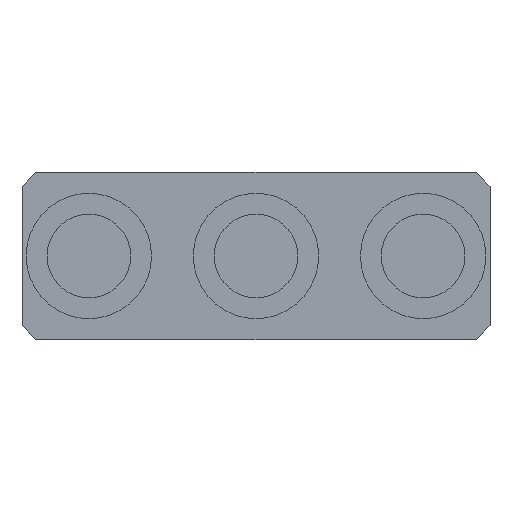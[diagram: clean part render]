
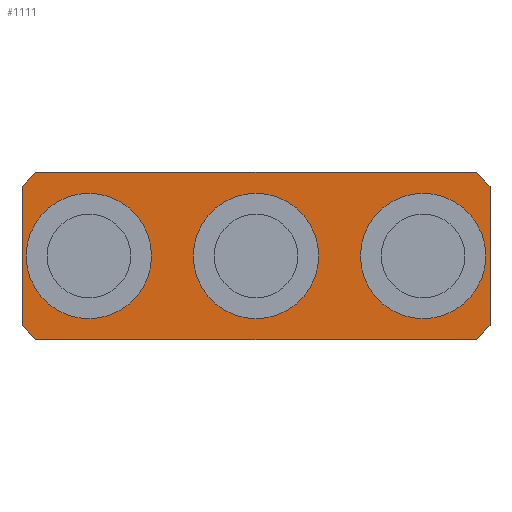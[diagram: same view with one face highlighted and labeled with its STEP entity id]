
A CAD part, left-side view. The second image highlights one B-rep face of the part: STEP entity #1111.
In plain terms, the highlighted planar face has unit normal (-1, 0, 0).
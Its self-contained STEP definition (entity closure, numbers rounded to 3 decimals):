
#1111 = ADVANCED_FACE('',(#1112,#1247,#1270,#1293),#1126,.F.);
#1112 = FACE_BOUND('',#1113,.T.);
#1113 = EDGE_LOOP('',(#1114,#1137,#1153,#1169,#1185,#1201,#1217,#1233));
#1114 = ORIENTED_EDGE('',*,*,#1115,.T.);
#1115 = EDGE_CURVE('',#1116,#1118,#1120,.T.);
#1116 = VERTEX_POINT('',#1117);
#1117 = CARTESIAN_POINT('',(0.,16.8,0.5));
#1118 = VERTEX_POINT('',#1119);
#1119 = CARTESIAN_POINT('',(0.,16.3,0.));
#1120 = SURFACE_CURVE('',#1121,(#1125),.PCURVE_S1.);
#1121 = LINE('',#1122,#1123);
#1122 = CARTESIAN_POINT('',(0.,16.3,0.));
#1123 = VECTOR('',#1124,1.);
#1124 = DIRECTION('',(0.,-0.707,-0.707));
#1125 = PCURVE('',#1126,#1131);
#1126 = PLANE('',#1127);
#1127 = AXIS2_PLACEMENT_3D('',#1128,#1129,#1130);
#1128 = CARTESIAN_POINT('',(0.,0.,0.));
#1129 = DIRECTION('',(1.,0.,0.));
#1130 = DIRECTION('',(0.,0.,-1.));
#1131 = DEFINITIONAL_REPRESENTATION('',(#1132),#1136);
#1132 = LINE('',#1133,#1134);
#1133 = CARTESIAN_POINT('',(0.,16.3));
#1134 = VECTOR('',#1135,1.);
#1135 = DIRECTION('',(0.707,-0.707));
#1136 = ( GEOMETRIC_REPRESENTATION_CONTEXT(2) 
PARAMETRIC_REPRESENTATION_CONTEXT() REPRESENTATION_CONTEXT('2D SPACE',''
  ) );
#1137 = ORIENTED_EDGE('',*,*,#1138,.F.);
#1138 = EDGE_CURVE('',#1139,#1118,#1141,.T.);
#1139 = VERTEX_POINT('',#1140);
#1140 = CARTESIAN_POINT('',(0.,0.5,0.));
#1141 = SURFACE_CURVE('',#1142,(#1146),.PCURVE_S1.);
#1142 = LINE('',#1143,#1144);
#1143 = CARTESIAN_POINT('',(0.,0.,0.));
#1144 = VECTOR('',#1145,1.);
#1145 = DIRECTION('',(0.,1.,0.));
#1146 = PCURVE('',#1126,#1147);
#1147 = DEFINITIONAL_REPRESENTATION('',(#1148),#1152);
#1148 = LINE('',#1149,#1150);
#1149 = CARTESIAN_POINT('',(0.,0.));
#1150 = VECTOR('',#1151,1.);
#1151 = DIRECTION('',(0.,1.));
#1152 = ( GEOMETRIC_REPRESENTATION_CONTEXT(2) 
PARAMETRIC_REPRESENTATION_CONTEXT() REPRESENTATION_CONTEXT('2D SPACE',''
  ) );
#1153 = ORIENTED_EDGE('',*,*,#1154,.T.);
#1154 = EDGE_CURVE('',#1139,#1155,#1157,.T.);
#1155 = VERTEX_POINT('',#1156);
#1156 = CARTESIAN_POINT('',(0.,0.,0.5));
#1157 = SURFACE_CURVE('',#1158,(#1162),.PCURVE_S1.);
#1158 = LINE('',#1159,#1160);
#1159 = CARTESIAN_POINT('',(0.,0.,0.5));
#1160 = VECTOR('',#1161,1.);
#1161 = DIRECTION('',(0.,-0.707,0.707));
#1162 = PCURVE('',#1126,#1163);
#1163 = DEFINITIONAL_REPRESENTATION('',(#1164),#1168);
#1164 = LINE('',#1165,#1166);
#1165 = CARTESIAN_POINT('',(-0.5,0.));
#1166 = VECTOR('',#1167,1.);
#1167 = DIRECTION('',(-0.707,-0.707));
#1168 = ( GEOMETRIC_REPRESENTATION_CONTEXT(2) 
PARAMETRIC_REPRESENTATION_CONTEXT() REPRESENTATION_CONTEXT('2D SPACE',''
  ) );
#1169 = ORIENTED_EDGE('',*,*,#1170,.F.);
#1170 = EDGE_CURVE('',#1171,#1155,#1173,.T.);
#1171 = VERTEX_POINT('',#1172);
#1172 = CARTESIAN_POINT('',(0.,0.,5.5));
#1173 = SURFACE_CURVE('',#1174,(#1178),.PCURVE_S1.);
#1174 = LINE('',#1175,#1176);
#1175 = CARTESIAN_POINT('',(0.,0.,6.));
#1176 = VECTOR('',#1177,1.);
#1177 = DIRECTION('',(0.,0.,-1.));
#1178 = PCURVE('',#1126,#1179);
#1179 = DEFINITIONAL_REPRESENTATION('',(#1180),#1184);
#1180 = LINE('',#1181,#1182);
#1181 = CARTESIAN_POINT('',(-6.,0.));
#1182 = VECTOR('',#1183,1.);
#1183 = DIRECTION('',(1.,0.));
#1184 = ( GEOMETRIC_REPRESENTATION_CONTEXT(2) 
PARAMETRIC_REPRESENTATION_CONTEXT() REPRESENTATION_CONTEXT('2D SPACE',''
  ) );
#1185 = ORIENTED_EDGE('',*,*,#1186,.T.);
#1186 = EDGE_CURVE('',#1171,#1187,#1189,.T.);
#1187 = VERTEX_POINT('',#1188);
#1188 = CARTESIAN_POINT('',(0.,0.5,6.));
#1189 = SURFACE_CURVE('',#1190,(#1194),.PCURVE_S1.);
#1190 = LINE('',#1191,#1192);
#1191 = CARTESIAN_POINT('',(0.,0.5,6.));
#1192 = VECTOR('',#1193,1.);
#1193 = DIRECTION('',(0.,0.707,0.707));
#1194 = PCURVE('',#1126,#1195);
#1195 = DEFINITIONAL_REPRESENTATION('',(#1196),#1200);
#1196 = LINE('',#1197,#1198);
#1197 = CARTESIAN_POINT('',(-6.,0.5));
#1198 = VECTOR('',#1199,1.);
#1199 = DIRECTION('',(-0.707,0.707));
#1200 = ( GEOMETRIC_REPRESENTATION_CONTEXT(2) 
PARAMETRIC_REPRESENTATION_CONTEXT() REPRESENTATION_CONTEXT('2D SPACE',''
  ) );
#1201 = ORIENTED_EDGE('',*,*,#1202,.F.);
#1202 = EDGE_CURVE('',#1203,#1187,#1205,.T.);
#1203 = VERTEX_POINT('',#1204);
#1204 = CARTESIAN_POINT('',(0.,16.3,6.));
#1205 = SURFACE_CURVE('',#1206,(#1210),.PCURVE_S1.);
#1206 = LINE('',#1207,#1208);
#1207 = CARTESIAN_POINT('',(0.,16.8,6.));
#1208 = VECTOR('',#1209,1.);
#1209 = DIRECTION('',(0.,-1.,0.));
#1210 = PCURVE('',#1126,#1211);
#1211 = DEFINITIONAL_REPRESENTATION('',(#1212),#1216);
#1212 = LINE('',#1213,#1214);
#1213 = CARTESIAN_POINT('',(-6.,16.8));
#1214 = VECTOR('',#1215,1.);
#1215 = DIRECTION('',(0.,-1.));
#1216 = ( GEOMETRIC_REPRESENTATION_CONTEXT(2) 
PARAMETRIC_REPRESENTATION_CONTEXT() REPRESENTATION_CONTEXT('2D SPACE',''
  ) );
#1217 = ORIENTED_EDGE('',*,*,#1218,.T.);
#1218 = EDGE_CURVE('',#1203,#1219,#1221,.T.);
#1219 = VERTEX_POINT('',#1220);
#1220 = CARTESIAN_POINT('',(0.,16.8,5.5));
#1221 = SURFACE_CURVE('',#1222,(#1226),.PCURVE_S1.);
#1222 = LINE('',#1223,#1224);
#1223 = CARTESIAN_POINT('',(0.,16.3,6.));
#1224 = VECTOR('',#1225,1.);
#1225 = DIRECTION('',(0.,0.707,-0.707));
#1226 = PCURVE('',#1126,#1227);
#1227 = DEFINITIONAL_REPRESENTATION('',(#1228),#1232);
#1228 = LINE('',#1229,#1230);
#1229 = CARTESIAN_POINT('',(-6.,16.3));
#1230 = VECTOR('',#1231,1.);
#1231 = DIRECTION('',(0.707,0.707));
#1232 = ( GEOMETRIC_REPRESENTATION_CONTEXT(2) 
PARAMETRIC_REPRESENTATION_CONTEXT() REPRESENTATION_CONTEXT('2D SPACE',''
  ) );
#1233 = ORIENTED_EDGE('',*,*,#1234,.F.);
#1234 = EDGE_CURVE('',#1116,#1219,#1235,.T.);
#1235 = SURFACE_CURVE('',#1236,(#1240),.PCURVE_S1.);
#1236 = LINE('',#1237,#1238);
#1237 = CARTESIAN_POINT('',(0.,16.8,0.));
#1238 = VECTOR('',#1239,1.);
#1239 = DIRECTION('',(0.,0.,1.));
#1240 = PCURVE('',#1126,#1241);
#1241 = DEFINITIONAL_REPRESENTATION('',(#1242),#1246);
#1242 = LINE('',#1243,#1244);
#1243 = CARTESIAN_POINT('',(0.,16.8));
#1244 = VECTOR('',#1245,1.);
#1245 = DIRECTION('',(-1.,0.));
#1246 = ( GEOMETRIC_REPRESENTATION_CONTEXT(2) 
PARAMETRIC_REPRESENTATION_CONTEXT() REPRESENTATION_CONTEXT('2D SPACE',''
  ) );
#1247 = FACE_BOUND('',#1248,.T.);
#1248 = EDGE_LOOP('',(#1249));
#1249 = ORIENTED_EDGE('',*,*,#1250,.F.);
#1250 = EDGE_CURVE('',#1251,#1251,#1253,.T.);
#1251 = VERTEX_POINT('',#1252);
#1252 = CARTESIAN_POINT('',(0.,10.65,3.));
#1253 = SURFACE_CURVE('',#1254,(#1259),.PCURVE_S1.);
#1254 = CIRCLE('',#1255,2.25);
#1255 = AXIS2_PLACEMENT_3D('',#1256,#1257,#1258);
#1256 = CARTESIAN_POINT('',(0.,8.4,3.));
#1257 = DIRECTION('',(-1.,0.,0.));
#1258 = DIRECTION('',(0.,1.,0.));
#1259 = PCURVE('',#1126,#1260);
#1260 = DEFINITIONAL_REPRESENTATION('',(#1261),#1269);
#1261 = ( BOUNDED_CURVE() B_SPLINE_CURVE(2,(#1262,#1263,#1264,#1265,
#1266,#1267,#1268),.UNSPECIFIED.,.T.,.F.) B_SPLINE_CURVE_WITH_KNOTS((1,2
    ,2,2,2,1),(-2.094,0.,2.094,4.189,
6.283,8.378),.UNSPECIFIED.) CURVE() 
GEOMETRIC_REPRESENTATION_ITEM() RATIONAL_B_SPLINE_CURVE((1.,0.5,1.,0.5,
1.,0.5,1.)) REPRESENTATION_ITEM('') );
#1262 = CARTESIAN_POINT('',(-3.,10.65));
#1263 = CARTESIAN_POINT('',(0.897,10.65));
#1264 = CARTESIAN_POINT('',(-1.051,7.275));
#1265 = CARTESIAN_POINT('',(-3.,3.9));
#1266 = CARTESIAN_POINT('',(-4.949,7.275));
#1267 = CARTESIAN_POINT('',(-6.897,10.65));
#1268 = CARTESIAN_POINT('',(-3.,10.65));
#1269 = ( GEOMETRIC_REPRESENTATION_CONTEXT(2) 
PARAMETRIC_REPRESENTATION_CONTEXT() REPRESENTATION_CONTEXT('2D SPACE',''
  ) );
#1270 = FACE_BOUND('',#1271,.T.);
#1271 = EDGE_LOOP('',(#1272));
#1272 = ORIENTED_EDGE('',*,*,#1273,.F.);
#1273 = EDGE_CURVE('',#1274,#1274,#1276,.T.);
#1274 = VERTEX_POINT('',#1275);
#1275 = CARTESIAN_POINT('',(0.,4.65,3.));
#1276 = SURFACE_CURVE('',#1277,(#1282),.PCURVE_S1.);
#1277 = CIRCLE('',#1278,2.25);
#1278 = AXIS2_PLACEMENT_3D('',#1279,#1280,#1281);
#1279 = CARTESIAN_POINT('',(0.,2.4,3.));
#1280 = DIRECTION('',(-1.,0.,0.));
#1281 = DIRECTION('',(0.,1.,0.));
#1282 = PCURVE('',#1126,#1283);
#1283 = DEFINITIONAL_REPRESENTATION('',(#1284),#1292);
#1284 = ( BOUNDED_CURVE() B_SPLINE_CURVE(2,(#1285,#1286,#1287,#1288,
#1289,#1290,#1291),.UNSPECIFIED.,.T.,.F.) B_SPLINE_CURVE_WITH_KNOTS((1,2
    ,2,2,2,1),(-2.094,0.,2.094,4.189,
6.283,8.378),.UNSPECIFIED.) CURVE() 
GEOMETRIC_REPRESENTATION_ITEM() RATIONAL_B_SPLINE_CURVE((1.,0.5,1.,0.5,
1.,0.5,1.)) REPRESENTATION_ITEM('') );
#1285 = CARTESIAN_POINT('',(-3.,4.65));
#1286 = CARTESIAN_POINT('',(0.897,4.65));
#1287 = CARTESIAN_POINT('',(-1.051,1.275));
#1288 = CARTESIAN_POINT('',(-3.,-2.1));
#1289 = CARTESIAN_POINT('',(-4.949,1.275));
#1290 = CARTESIAN_POINT('',(-6.897,4.65));
#1291 = CARTESIAN_POINT('',(-3.,4.65));
#1292 = ( GEOMETRIC_REPRESENTATION_CONTEXT(2) 
PARAMETRIC_REPRESENTATION_CONTEXT() REPRESENTATION_CONTEXT('2D SPACE',''
  ) );
#1293 = FACE_BOUND('',#1294,.T.);
#1294 = EDGE_LOOP('',(#1295));
#1295 = ORIENTED_EDGE('',*,*,#1296,.F.);
#1296 = EDGE_CURVE('',#1297,#1297,#1299,.T.);
#1297 = VERTEX_POINT('',#1298);
#1298 = CARTESIAN_POINT('',(0.,16.65,3.));
#1299 = SURFACE_CURVE('',#1300,(#1305),.PCURVE_S1.);
#1300 = CIRCLE('',#1301,2.25);
#1301 = AXIS2_PLACEMENT_3D('',#1302,#1303,#1304);
#1302 = CARTESIAN_POINT('',(0.,14.4,3.));
#1303 = DIRECTION('',(-1.,0.,0.));
#1304 = DIRECTION('',(0.,1.,0.));
#1305 = PCURVE('',#1126,#1306);
#1306 = DEFINITIONAL_REPRESENTATION('',(#1307),#1315);
#1307 = ( BOUNDED_CURVE() B_SPLINE_CURVE(2,(#1308,#1309,#1310,#1311,
#1312,#1313,#1314),.UNSPECIFIED.,.T.,.F.) B_SPLINE_CURVE_WITH_KNOTS((1,2
    ,2,2,2,1),(-2.094,0.,2.094,4.189,
6.283,8.378),.UNSPECIFIED.) CURVE() 
GEOMETRIC_REPRESENTATION_ITEM() RATIONAL_B_SPLINE_CURVE((1.,0.5,1.,0.5,
1.,0.5,1.)) REPRESENTATION_ITEM('') );
#1308 = CARTESIAN_POINT('',(-3.,16.65));
#1309 = CARTESIAN_POINT('',(0.897,16.65));
#1310 = CARTESIAN_POINT('',(-1.051,13.275));
#1311 = CARTESIAN_POINT('',(-3.,9.9));
#1312 = CARTESIAN_POINT('',(-4.949,13.275));
#1313 = CARTESIAN_POINT('',(-6.897,16.65));
#1314 = CARTESIAN_POINT('',(-3.,16.65));
#1315 = ( GEOMETRIC_REPRESENTATION_CONTEXT(2) 
PARAMETRIC_REPRESENTATION_CONTEXT() REPRESENTATION_CONTEXT('2D SPACE',''
  ) );
